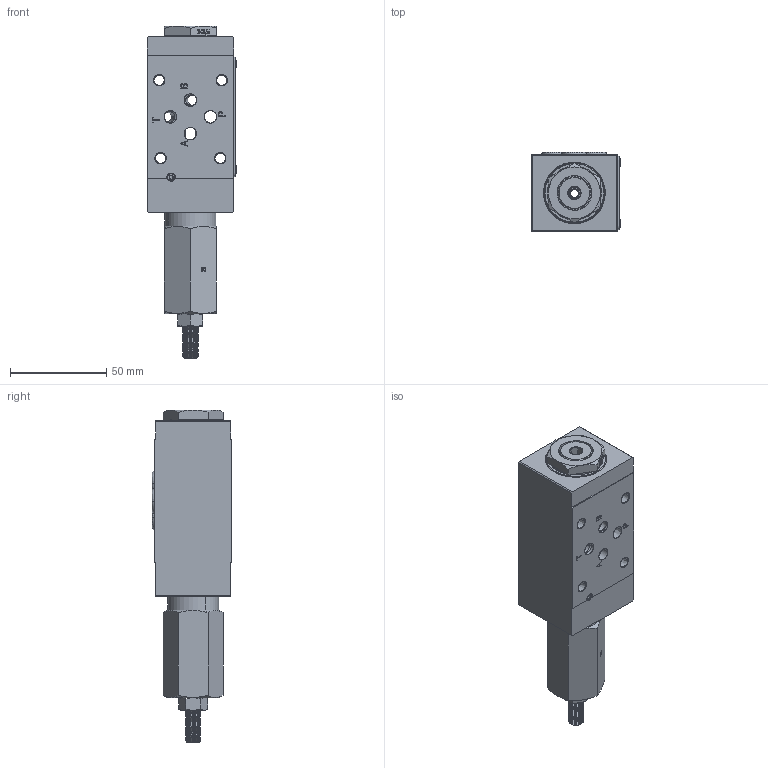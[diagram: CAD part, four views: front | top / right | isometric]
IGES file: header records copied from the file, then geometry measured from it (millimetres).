
Start section: SolidWorks IGES file using analytic representation for surfaces
Global section: file name: C:\Users\pc-te25\Desktop\ASSIEME 376-5-A-03.IGS; native system: SolidWorks 2018; preprocessor: SolidWorks 2018; author: pc-te25; date: 191203.153300; units: millimetre
Bounding box: 46.66 x 41.37 x 172.5 mm (x, y, z)
Surface area: 35149.5 mm2 (no closed solid volume)
Topology: 0 solids, 0 shells, 1001 faces, 16544 edges, 16544 vertices
Faces by surface type: bspline 695, revolution 306
